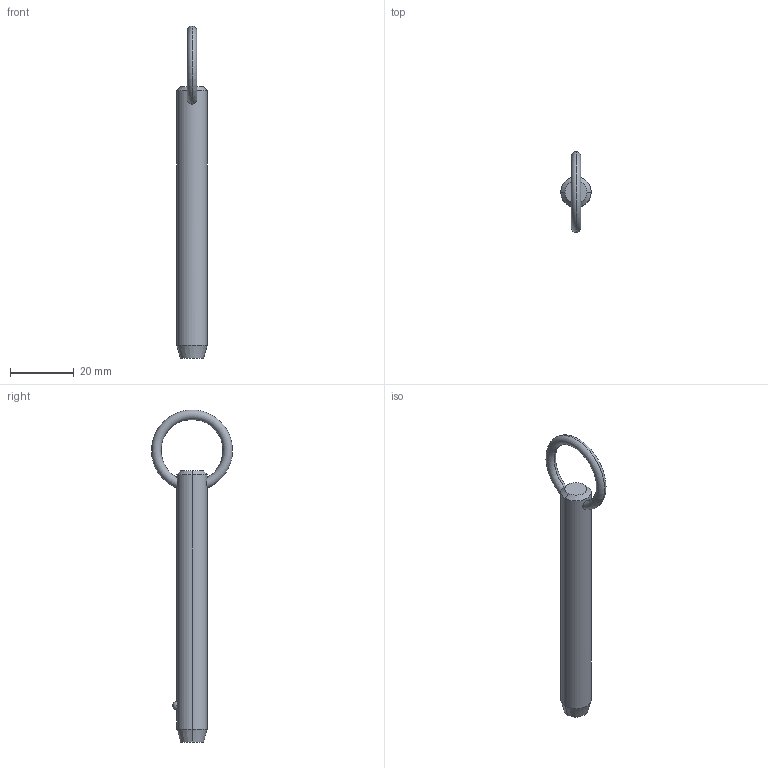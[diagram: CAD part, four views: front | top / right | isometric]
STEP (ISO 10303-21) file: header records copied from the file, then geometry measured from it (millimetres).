
FILE_DESCRIPTION (( 'STEP AP203' ), '1' );
FILE_NAME ('P1250.037-260.step', '2019-07-29T20:02:51', ( '' ), ( '' ), 'SwSTEP 2.0', 'SolidWorks 2017', '' );
FILE_SCHEMA (( 'CONFIG_CONTROL_DESIGN' ));
Length unit declared in the file: millimetre
Products named in the file (1): P1250.037-260
Bounding box: 9.52 x 25.39 x 104.1 mm (x, y, z)
Volume: 6405.1 mm3; surface area: 3185.9 mm2
Topology: 1 solids, 1 shells, 12 faces, 28 edges, 17 vertices
Faces by surface type: cone 4, torus 2, sphere 2, cylinder 2, plane 2
Entity records: 523 total; most frequent: CARTESIAN_POINT 190, DIRECTION 56, ORIENTED_EDGE 48, AXIS2_PLACEMENT_3D 25, EDGE_CURVE 24, VERTEX_POINT 15, EDGE_LOOP 15, ADVANCED_FACE 12
